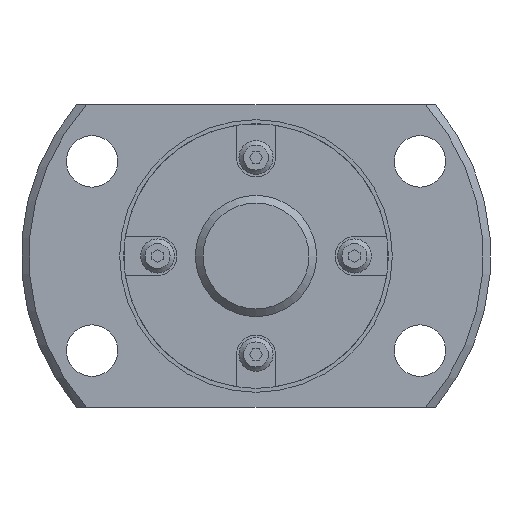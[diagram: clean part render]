
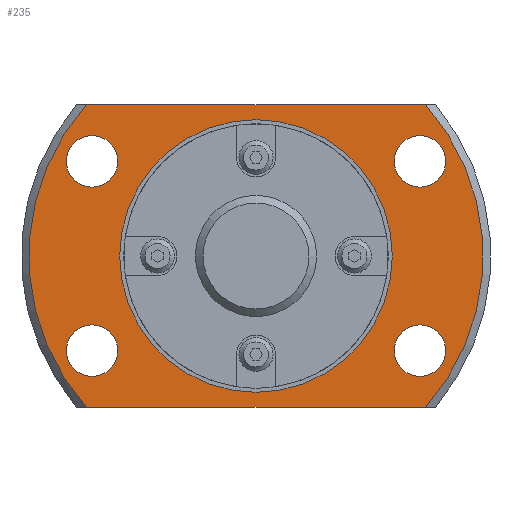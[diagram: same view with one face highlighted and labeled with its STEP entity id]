
A CAD part, left-side view. The second image highlights one B-rep face of the part: STEP entity #235.
In plain terms, the highlighted planar face has unit normal (-1, 0, 0).
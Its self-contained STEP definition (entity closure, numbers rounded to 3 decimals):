
#235 = ADVANCED_FACE( '', ( #429, #430, #431, #432, #433, #434 ), #435, .F. );
#429 = FACE_OUTER_BOUND( '', #682, .T. );
#430 = FACE_BOUND( '', #683, .T. );
#431 = FACE_BOUND( '', #684, .T. );
#432 = FACE_BOUND( '', #685, .T. );
#433 = FACE_BOUND( '', #686, .T. );
#434 = FACE_BOUND( '', #687, .T. );
#435 = PLANE( '', #688 );
#682 = EDGE_LOOP( '', ( #1223, #1224, #1225, #1226 ) );
#683 = EDGE_LOOP( '', ( #1227 ) );
#684 = EDGE_LOOP( '', ( #1228 ) );
#685 = EDGE_LOOP( '', ( #1229 ) );
#686 = EDGE_LOOP( '', ( #1230 ) );
#687 = EDGE_LOOP( '', ( #1231 ) );
#688 = AXIS2_PLACEMENT_3D( '', #1232, #1233, #1234 );
#1223 = ORIENTED_EDGE( '', *, *, #1515, .F. );
#1224 = ORIENTED_EDGE( '', *, *, #1640, .T. );
#1225 = ORIENTED_EDGE( '', *, *, #1641, .F. );
#1226 = ORIENTED_EDGE( '', *, *, #1514, .T. );
#1227 = ORIENTED_EDGE( '', *, *, #1627, .T. );
#1228 = ORIENTED_EDGE( '', *, *, #1629, .T. );
#1229 = ORIENTED_EDGE( '', *, *, #1631, .T. );
#1230 = ORIENTED_EDGE( '', *, *, #1633, .T. );
#1231 = ORIENTED_EDGE( '', *, *, #1642, .T. );
#1232 = CARTESIAN_POINT( '', ( 10., 8.725, 0. ) );
#1233 = DIRECTION( '', ( 1., 0., 0. ) );
#1234 = DIRECTION( '', ( 0., 0., -1. ) );
#1514 = EDGE_CURVE( '', #1731, #1743, #1745, .T. );
#1515 = EDGE_CURVE( '', #1746, #1743, #1747, .T. );
#1627 = EDGE_CURVE( '', #1945, #1945, #1946, .T. );
#1629 = EDGE_CURVE( '', #1949, #1949, #1950, .T. );
#1631 = EDGE_CURVE( '', #1953, #1953, #1954, .T. );
#1633 = EDGE_CURVE( '', #1957, #1957, #1958, .T. );
#1640 = EDGE_CURVE( '', #1746, #1969, #1971, .T. );
#1641 = EDGE_CURVE( '', #1731, #1969, #1972, .T. );
#1642 = EDGE_CURVE( '', #1973, #1973, #1974, .T. );
#1731 = VERTEX_POINT( '', #2091 );
#1743 = VERTEX_POINT( '', #2115 );
#1745 = LINE( '', #2120, #2121 );
#1746 = VERTEX_POINT( '', #2122 );
#1747 = CIRCLE( '', #2123, 15. );
#1945 = VERTEX_POINT( '', #2413 );
#1946 = CIRCLE( '', #2414, 1.7 );
#1949 = VERTEX_POINT( '', #2417 );
#1950 = CIRCLE( '', #2418, 1.7 );
#1953 = VERTEX_POINT( '', #2421 );
#1954 = CIRCLE( '', #2422, 1.7 );
#1957 = VERTEX_POINT( '', #2425 );
#1958 = CIRCLE( '', #2426, 1.7 );
#1969 = VERTEX_POINT( '', #2446 );
#1971 = LINE( '', #2451, #2452 );
#1972 = CIRCLE( '', #2453, 15. );
#1973 = VERTEX_POINT( '', #2454 );
#1974 = CIRCLE( '', #2455, 8.725 );
#2091 = CARTESIAN_POINT( '', ( 10., -11.18, 10. ) );
#2115 = CARTESIAN_POINT( '', ( 10., 11.18, 10. ) );
#2120 = CARTESIAN_POINT( '', ( 10., 8.725, 10. ) );
#2121 = VECTOR( '', #2592, 1000. );
#2122 = CARTESIAN_POINT( '', ( 10., 11.18, -10. ) );
#2123 = AXIS2_PLACEMENT_3D( '', #2593, #2594, #2595 );
#2413 = CARTESIAN_POINT( '', ( 10., -10.825, -7.95 ) );
#2414 = AXIS2_PLACEMENT_3D( '', #2748, #2749, #2750 );
#2417 = CARTESIAN_POINT( '', ( 10., -10.825, 4.55 ) );
#2418 = AXIS2_PLACEMENT_3D( '', #2754, #2755, #2756 );
#2421 = CARTESIAN_POINT( '', ( 10., 10.825, -7.95 ) );
#2422 = AXIS2_PLACEMENT_3D( '', #2760, #2761, #2762 );
#2425 = CARTESIAN_POINT( '', ( 10., 10.825, 4.55 ) );
#2426 = AXIS2_PLACEMENT_3D( '', #2766, #2767, #2768 );
#2446 = CARTESIAN_POINT( '', ( 10., -11.18, -10. ) );
#2451 = CARTESIAN_POINT( '', ( 10., 8.725, -10. ) );
#2452 = VECTOR( '', #2772, 1000. );
#2453 = AXIS2_PLACEMENT_3D( '', #2773, #2774, #2775 );
#2454 = CARTESIAN_POINT( '', ( 10., 0., -8.725 ) );
#2455 = AXIS2_PLACEMENT_3D( '', #2776, #2777, #2778 );
#2592 = DIRECTION( '', ( 0., 1., 0. ) );
#2593 = CARTESIAN_POINT( '', ( 10., 0., 0. ) );
#2594 = DIRECTION( '', ( 1., 0., 0. ) );
#2595 = DIRECTION( '', ( 0., 0., -1. ) );
#2748 = CARTESIAN_POINT( '', ( 10., -10.825, -6.25 ) );
#2749 = DIRECTION( '', ( 1., 0., 0. ) );
#2750 = DIRECTION( '', ( 0., 0., -1. ) );
#2754 = CARTESIAN_POINT( '', ( 10., -10.825, 6.25 ) );
#2755 = DIRECTION( '', ( 1., 0., 0. ) );
#2756 = DIRECTION( '', ( 0., 0., -1. ) );
#2760 = CARTESIAN_POINT( '', ( 10., 10.825, -6.25 ) );
#2761 = DIRECTION( '', ( 1., 0., 0. ) );
#2762 = DIRECTION( '', ( 0., 0., -1. ) );
#2766 = CARTESIAN_POINT( '', ( 10., 10.825, 6.25 ) );
#2767 = DIRECTION( '', ( 1., 0., 0. ) );
#2768 = DIRECTION( '', ( 0., 0., -1. ) );
#2772 = DIRECTION( '', ( 0., -1., 0. ) );
#2773 = CARTESIAN_POINT( '', ( 10., 0., 0. ) );
#2774 = DIRECTION( '', ( 1., 0., 0. ) );
#2775 = DIRECTION( '', ( 0., 0., -1. ) );
#2776 = CARTESIAN_POINT( '', ( 10., 0., 0. ) );
#2777 = DIRECTION( '', ( 1., 0., 0. ) );
#2778 = DIRECTION( '', ( 0., 0., -1. ) );
